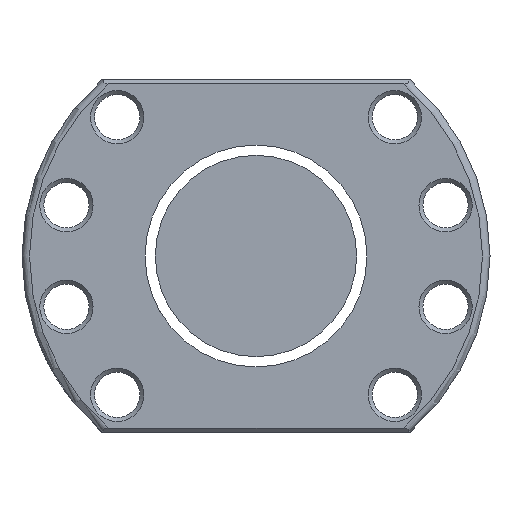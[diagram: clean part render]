
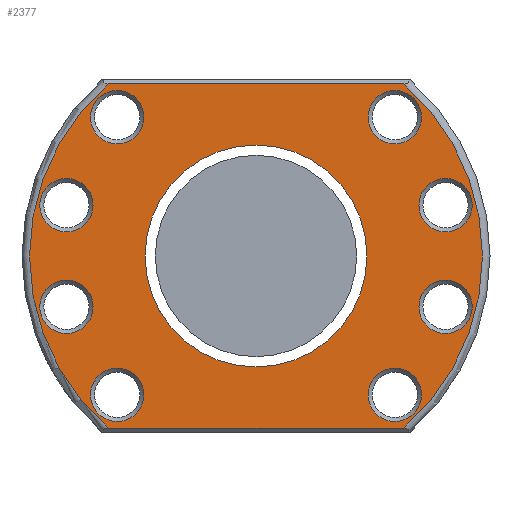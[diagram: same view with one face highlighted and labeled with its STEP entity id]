
A CAD part, left-side view. The second image highlights one B-rep face of the part: STEP entity #2377.
In plain terms, the highlighted planar face has unit normal (-1, 0, 0).
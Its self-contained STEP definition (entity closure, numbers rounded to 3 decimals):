
#5 = EDGE_LOOP ( 'NONE', ( #2356 ) ) ;
#36 = VERTEX_POINT ( 'NONE', #260 ) ;
#57 = FACE_BOUND ( 'NONE', #778, .T. ) ;
#61 = EDGE_CURVE ( 'NONE', #2040, #3260, #110, .T. ) ;
#99 = ORIENTED_EDGE ( 'NONE', *, *, #598, .T. ) ;
#110 = LINE ( 'NONE', #1590, #2790 ) ;
#124 = PLANE ( 'NONE',  #2825 ) ;
#173 = DIRECTION ( 'NONE',  ( 0., -1., 0. ) ) ;
#241 = AXIS2_PLACEMENT_3D ( 'NONE', #2955, #1722, #173 ) ;
#244 = CARTESIAN_POINT ( 'NONE',  ( -88., 32.371, -10.094 ) ) ;
#250 = EDGE_CURVE ( 'NONE', #2817, #2817, #2892, .T. ) ;
#260 = CARTESIAN_POINT ( 'NONE',  ( -88., -32.877, 27.577 ) ) ;
#305 = DIRECTION ( 'NONE',  ( 0., -1., 0. ) ) ;
#343 = EDGE_LOOP ( 'NONE', ( #1514, #2508, #1000, #944 ) ) ;
#374 = FACE_BOUND ( 'NONE', #1538, .T. ) ;
#396 = ORIENTED_EDGE ( 'NONE', *, *, #2242, .T. ) ;
#422 = CARTESIAN_POINT ( 'NONE',  ( -88., 29.247, 34.2 ) ) ;
#436 = AXIS2_PLACEMENT_3D ( 'NONE', #3148, #869, #1330 ) ;
#449 = CIRCLE ( 'NONE', #930, 5.3 ) ;
#458 = CARTESIAN_POINT ( 'NONE',  ( -88., 27.577, -27.577 ) ) ;
#462 = VERTEX_POINT ( 'NONE', #1393 ) ;
#484 = DIRECTION ( 'NONE',  ( 0., -1., 0. ) ) ;
#592 = CARTESIAN_POINT ( 'NONE',  ( -88., 46.5, 0. ) ) ;
#598 = EDGE_CURVE ( 'NONE', #2566, #2566, #2148, .T. ) ;
#609 = DIRECTION ( 'NONE',  ( -1., 0., 0. ) ) ;
#630 = EDGE_LOOP ( 'NONE', ( #2761 ) ) ;
#640 = DIRECTION ( 'NONE',  ( -1., 0., 0. ) ) ;
#774 = VERTEX_POINT ( 'NONE', #2581 ) ;
#778 = EDGE_LOOP ( 'NONE', ( #912 ) ) ;
#780 = EDGE_CURVE ( 'NONE', #462, #1579, #1941, .T. ) ;
#837 = CARTESIAN_POINT ( 'NONE',  ( -88., -37.671, -10.094 ) ) ;
#859 = DIRECTION ( 'NONE',  ( 0., -1., 0. ) ) ;
#869 = DIRECTION ( 'NONE',  ( 1., 0., 0. ) ) ;
#891 = DIRECTION ( 'NONE',  ( 0., -1., 0. ) ) ;
#912 = ORIENTED_EDGE ( 'NONE', *, *, #2810, .T. ) ;
#916 = DIRECTION ( 'NONE',  ( 1., 0., 0. ) ) ;
#930 = AXIS2_PLACEMENT_3D ( 'NONE', #2317, #1039, #305 ) ;
#944 = ORIENTED_EDGE ( 'NONE', *, *, #1141, .T. ) ;
#998 = EDGE_CURVE ( 'NONE', #1273, #1273, #449, .T. ) ;
#1000 = ORIENTED_EDGE ( 'NONE', *, *, #61, .T. ) ;
#1039 = DIRECTION ( 'NONE',  ( 1., 0., 0. ) ) ;
#1068 = VERTEX_POINT ( 'NONE', #3137 ) ;
#1073 = FACE_BOUND ( 'NONE', #2546, .T. ) ;
#1093 = AXIS2_PLACEMENT_3D ( 'NONE', #837, #1301, #1601 ) ;
#1099 = ORIENTED_EDGE ( 'NONE', *, *, #1632, .T. ) ;
#1141 = EDGE_CURVE ( 'NONE', #3260, #462, #1886, .T. ) ;
#1182 = DIRECTION ( 'NONE',  ( 0., 1., 0. ) ) ;
#1241 = CIRCLE ( 'NONE', #3099, 5.3 ) ;
#1273 = VERTEX_POINT ( 'NONE', #2051 ) ;
#1290 = CIRCLE ( 'NONE', #2190, 45. ) ;
#1301 = DIRECTION ( 'NONE',  ( 1., 0., 0. ) ) ;
#1330 = DIRECTION ( 'NONE',  ( 0., -1., 0. ) ) ;
#1390 = EDGE_LOOP ( 'NONE', ( #1099 ) ) ;
#1393 = CARTESIAN_POINT ( 'NONE',  ( -88., 29.247, -34.2 ) ) ;
#1422 = EDGE_CURVE ( 'NONE', #36, #36, #1668, .T. ) ;
#1450 = DIRECTION ( 'NONE',  ( 1., 0., 0. ) ) ;
#1455 = AXIS2_PLACEMENT_3D ( 'NONE', #3134, #2393, #2911 ) ;
#1514 = ORIENTED_EDGE ( 'NONE', *, *, #780, .T. ) ;
#1538 = EDGE_LOOP ( 'NONE', ( #3269 ) ) ;
#1562 = VECTOR ( 'NONE', #1927, 1000. ) ;
#1579 = VERTEX_POINT ( 'NONE', #1838 ) ;
#1590 = CARTESIAN_POINT ( 'NONE',  ( -88., 30.615, 34.2 ) ) ;
#1601 = DIRECTION ( 'NONE',  ( 0., -1., 0. ) ) ;
#1603 = VERTEX_POINT ( 'NONE', #3151 ) ;
#1611 = CIRCLE ( 'NONE', #2615, 5.3 ) ;
#1632 = EDGE_CURVE ( 'NONE', #2035, #2035, #2678, .T. ) ;
#1652 = FACE_OUTER_BOUND ( 'NONE', #343, .T. ) ;
#1668 = CIRCLE ( 'NONE', #241, 5.3 ) ;
#1708 = DIRECTION ( 'NONE',  ( -1., 0., 0. ) ) ;
#1722 = DIRECTION ( 'NONE',  ( 1., 0., 0. ) ) ;
#1731 = EDGE_CURVE ( 'NONE', #774, #774, #2797, .T. ) ;
#1838 = CARTESIAN_POINT ( 'NONE',  ( -88., -29.247, -34.2 ) ) ;
#1840 = FACE_BOUND ( 'NONE', #2516, .T. ) ;
#1869 = CARTESIAN_POINT ( 'NONE',  ( -88., 0., 0. ) ) ;
#1875 = CIRCLE ( 'NONE', #436, 5.3 ) ;
#1886 = CIRCLE ( 'NONE', #2794, 45. ) ;
#1927 = DIRECTION ( 'NONE',  ( 0., -1., 0. ) ) ;
#1941 = LINE ( 'NONE', #3265, #1562 ) ;
#1955 = CARTESIAN_POINT ( 'NONE',  ( -88., 27.577, 27.577 ) ) ;
#2035 = VERTEX_POINT ( 'NONE', #2832 ) ;
#2040 = VERTEX_POINT ( 'NONE', #2150 ) ;
#2051 = CARTESIAN_POINT ( 'NONE',  ( -88., -42.971, 10.094 ) ) ;
#2108 = FACE_BOUND ( 'NONE', #630, .T. ) ;
#2148 = CIRCLE ( 'NONE', #2626, 5.3 ) ;
#2150 = CARTESIAN_POINT ( 'NONE',  ( -88., -29.247, 34.2 ) ) ;
#2179 = EDGE_CURVE ( 'NONE', #1579, #2040, #1290, .T. ) ;
#2190 = AXIS2_PLACEMENT_3D ( 'NONE', #2494, #1708, #2763 ) ;
#2242 = EDGE_CURVE ( 'NONE', #1068, #1068, #1611, .T. ) ;
#2317 = CARTESIAN_POINT ( 'NONE',  ( -88., -37.671, 10.094 ) ) ;
#2356 = ORIENTED_EDGE ( 'NONE', *, *, #250, .T. ) ;
#2366 = CARTESIAN_POINT ( 'NONE',  ( -88., 22.277, -27.577 ) ) ;
#2377 = ADVANCED_FACE ( 'NONE', ( #2870, #2400, #57, #1073, #2108, #374, #1840, #3107, #1652, #3175 ), #124, .T. ) ;
#2390 = ORIENTED_EDGE ( 'NONE', *, *, #3095, .T. ) ;
#2393 = DIRECTION ( 'NONE',  ( 1., 0., 0. ) ) ;
#2400 = FACE_BOUND ( 'NONE', #3179, .T. ) ;
#2494 = CARTESIAN_POINT ( 'NONE',  ( -88., 0., 0. ) ) ;
#2504 = DIRECTION ( 'NONE',  ( 0., -1., 0. ) ) ;
#2508 = ORIENTED_EDGE ( 'NONE', *, *, #2179, .T. ) ;
#2516 = EDGE_LOOP ( 'NONE', ( #396 ) ) ;
#2546 = EDGE_LOOP ( 'NONE', ( #2742 ) ) ;
#2551 = CARTESIAN_POINT ( 'NONE',  ( -88., 32.371, 10.094 ) ) ;
#2566 = VERTEX_POINT ( 'NONE', #244 ) ;
#2581 = CARTESIAN_POINT ( 'NONE',  ( -88., -42.971, -10.094 ) ) ;
#2606 = EDGE_LOOP ( 'NONE', ( #99 ) ) ;
#2615 = AXIS2_PLACEMENT_3D ( 'NONE', #1955, #2972, #484 ) ;
#2619 = DIRECTION ( 'NONE',  ( 0., 1., 0. ) ) ;
#2626 = AXIS2_PLACEMENT_3D ( 'NONE', #3196, #916, #2974 ) ;
#2664 = DIRECTION ( 'NONE',  ( 1., 0., 0. ) ) ;
#2678 = CIRCLE ( 'NONE', #3061, 22.05 ) ;
#2742 = ORIENTED_EDGE ( 'NONE', *, *, #1731, .T. ) ;
#2761 = ORIENTED_EDGE ( 'NONE', *, *, #998, .T. ) ;
#2763 = DIRECTION ( 'NONE',  ( 0., -1., 0. ) ) ;
#2790 = VECTOR ( 'NONE', #2619, 1000. ) ;
#2794 = AXIS2_PLACEMENT_3D ( 'NONE', #1869, #609, #859 ) ;
#2797 = CIRCLE ( 'NONE', #1093, 5.3 ) ;
#2810 = EDGE_CURVE ( 'NONE', #1603, #1603, #1875, .T. ) ;
#2817 = VERTEX_POINT ( 'NONE', #2551 ) ;
#2825 = AXIS2_PLACEMENT_3D ( 'NONE', #592, #640, #891 ) ;
#2832 = CARTESIAN_POINT ( 'NONE',  ( -88., 22.05, 0. ) ) ;
#2870 = FACE_BOUND ( 'NONE', #2606, .T. ) ;
#2892 = CIRCLE ( 'NONE', #1455, 5.3 ) ;
#2898 = VERTEX_POINT ( 'NONE', #2366 ) ;
#2911 = DIRECTION ( 'NONE',  ( 0., -1., 0. ) ) ;
#2955 = CARTESIAN_POINT ( 'NONE',  ( -88., -27.577, 27.577 ) ) ;
#2972 = DIRECTION ( 'NONE',  ( 1., 0., 0. ) ) ;
#2974 = DIRECTION ( 'NONE',  ( 0., -1., 0. ) ) ;
#3061 = AXIS2_PLACEMENT_3D ( 'NONE', #3202, #2664, #1182 ) ;
#3095 = EDGE_CURVE ( 'NONE', #2898, #2898, #1241, .T. ) ;
#3099 = AXIS2_PLACEMENT_3D ( 'NONE', #458, #1450, #2504 ) ;
#3107 = FACE_BOUND ( 'NONE', #5, .T. ) ;
#3134 = CARTESIAN_POINT ( 'NONE',  ( -88., 37.671, 10.094 ) ) ;
#3137 = CARTESIAN_POINT ( 'NONE',  ( -88., 22.277, 27.577 ) ) ;
#3148 = CARTESIAN_POINT ( 'NONE',  ( -88., -27.577, -27.577 ) ) ;
#3151 = CARTESIAN_POINT ( 'NONE',  ( -88., -32.877, -27.577 ) ) ;
#3175 = FACE_BOUND ( 'NONE', #1390, .T. ) ;
#3179 = EDGE_LOOP ( 'NONE', ( #2390 ) ) ;
#3196 = CARTESIAN_POINT ( 'NONE',  ( -88., 37.671, -10.094 ) ) ;
#3202 = CARTESIAN_POINT ( 'NONE',  ( -88., 0., 0. ) ) ;
#3260 = VERTEX_POINT ( 'NONE', #422 ) ;
#3265 = CARTESIAN_POINT ( 'NONE',  ( -88., -30.615, -34.2 ) ) ;
#3269 = ORIENTED_EDGE ( 'NONE', *, *, #1422, .T. ) ;
